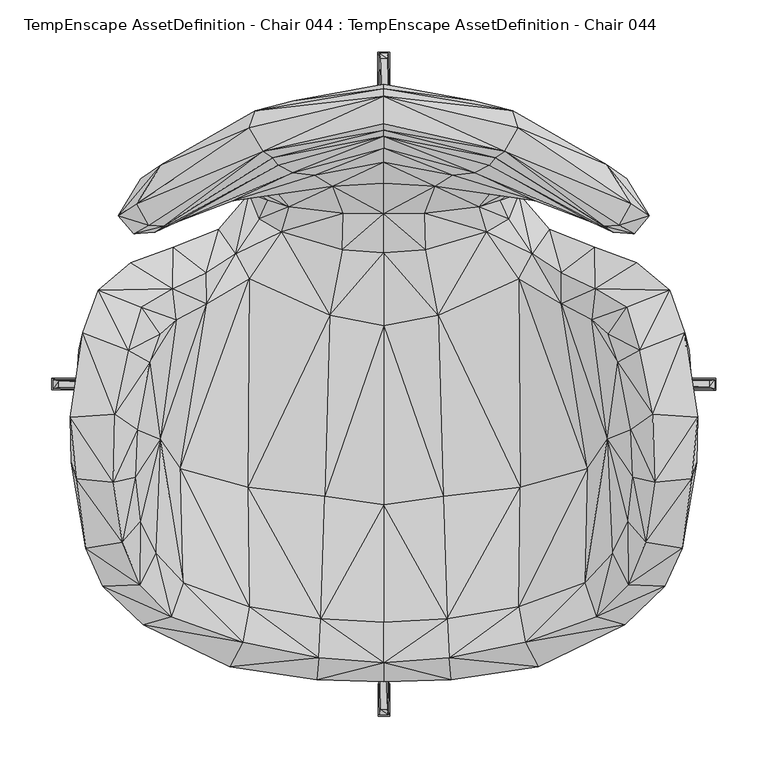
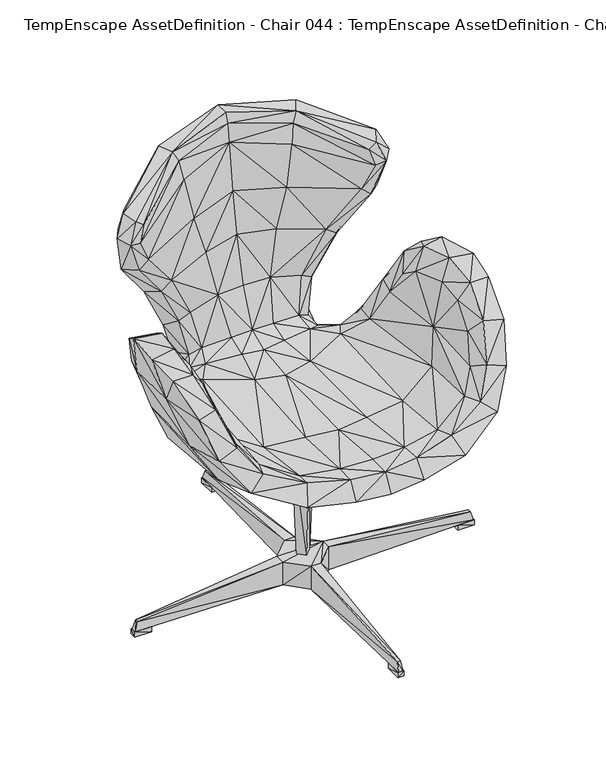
"""IFC4 building model written with IfcOpenShell, lengths in millimetres: geographic element geometry, TempEnscape AssetDefinition - Chair 044 : TempEnscape AssetDefinition - Chair 044."""

import ifcopenshell
import ifcopenshell.guid

model = None  # the IFC model being written
_history = None  # IfcOwnerHistory: only IFC2X3 demands one
_inside = {}  # id of a spatial element -> (the spatial element, [elements in it])
_under = {}  # id of a project, library or spatial element -> (it, [spatial elements below it])
_declared = {}  # id of a project -> (the project, [libraries it declares])
_typed = {}  # id of a type object -> (the type object, [elements of that type])
_made_of = {}  # id of a material, layer set ... -> (it, [elements and type objects made of it])


def new_model(schema):
    """Start an empty IFC model of exactly this schema.

    Asked for "IFC4X3", IfcOpenShell would pick the latest addendum, in which some entities
    have other attributes; the version numbers below select the first issue.
    IFC2X3 requires an IfcOwnerHistory on every rooted entity: one is made here for all.
    """
    global model, _history
    if schema == "IFC4X3":
        model = ifcopenshell.file(schema_version=(4, 3, 0, 0))
    else:
        model = ifcopenshell.file(schema=schema)
    _inside.clear()
    _under.clear()
    _declared.clear()
    _typed.clear()
    _made_of.clear()
    _history = None
    if model.schema == "IFC2X3":
        org = make("IfcOrganization", Name="unknown")
        user = make(
            "IfcPersonAndOrganization",
            ThePerson=make("IfcPerson", FamilyName="unknown"),
            TheOrganization=org,
        )
        app = make(
            "IfcApplication",
            ApplicationDeveloper=org,
            Version="unknown",
            ApplicationFullName="unknown",
            ApplicationIdentifier="unknown",
        )
        _history = make(
            "IfcOwnerHistory",
            OwningUser=user,
            OwningApplication=app,
            ChangeAction="ADDED",
            CreationDate=0,
        )
    return model


def make(cls, **values):
    """One entity of the class cls with the attributes given. An attribute that is None is left unset."""
    return model.create_entity(
        cls, **{name: value for name, value in values.items() if value is not None}
    )


def rooted(cls, **values):
    """An entity with a GlobalId (a new one), such as an element, a storey or a relation."""
    return make(cls, GlobalId=ifcopenshell.guid.new(), OwnerHistory=_history, **values)


def si_unit(unit_type, name, prefix=None):
    """IfcSIUnit, for example si_unit("LENGTHUNIT", "METRE", prefix="MILLI")."""
    return make("IfcSIUnit", UnitType=unit_type, Prefix=prefix, Name=name)


def assignment(units):
    """IfcUnitAssignment: the units of a project."""
    return None if units is None else make("IfcUnitAssignment", Units=units)


def point(xyz):
    """IfcCartesianPoint."""
    return None if xyz is None else make("IfcCartesianPoint", Coordinates=xyz)


def direction(xyz):
    """IfcDirection."""
    return None if xyz is None else make("IfcDirection", DirectionRatios=xyz)


def frame(location, z_axis=None, x_axis=None):
    """IfcAxis2Placement3D, a coordinate frame: its origin and axes. An axis left out is left unset."""
    return make(
        "IfcAxis2Placement3D",
        Location=point(location),
        Axis=direction(z_axis),
        RefDirection=direction(x_axis),
    )


def origin():
    """The frame at (0, 0, 0) with its axes left unset."""
    return frame((0.0, 0.0, 0.0))


def place(relative_to, where):
    """IfcLocalPlacement: puts the frame where relative to a parent placement (None: the world)."""
    return make(
        "IfcLocalPlacement", PlacementRelTo=relative_to, RelativePlacement=where
    )


def context(
    kind, dimensions, precision=None, world=None, true_north=None, identifier=None
):
    """IfcGeometricRepresentationContext, for example the 3D "Model" context."""
    return make(
        "IfcGeometricRepresentationContext",
        ContextIdentifier=identifier,
        ContextType=kind,
        CoordinateSpaceDimension=dimensions,
        Precision=precision,
        WorldCoordinateSystem=world,
        TrueNorth=true_north,
    )


def project(units=None, contexts=None):
    """IfcProject with its units and contexts."""
    return rooted(
        "IfcProject",
        Name="project",
        RepresentationContexts=contexts,
        UnitsInContext=assignment(units),
    )


def spatial(cls, under=None, at=None, **own):
    """A site, building, storey or space (cls), placed at a placement, below another one or the project."""
    s = rooted(cls, ObjectPlacement=at, **own)
    if under is not None:
        _under.setdefault(under.id(), (under, []))[1].append(s)
    return s


def faces_of(points, faces, orient=None, outer=None):
    """IfcFace entities. A face is a list of loops; a loop is a list of indices into points, from 0.

    orient and outer hold one flag for each loop. By default every Orientation is true, the
    first loop of a face is its IfcFaceOuterBound and the others are IfcFaceBound.
    """
    made = []
    for i, loops in enumerate(faces):
        bounds = []
        for j, loop in enumerate(loops):
            is_outer = j == 0 if outer is None else outer[i][j]
            bounds.append(
                make(
                    "IfcFaceOuterBound" if is_outer else "IfcFaceBound",
                    Bound=make("IfcPolyLoop", Polygon=[points[k] for k in loop]),
                    Orientation=True if orient is None else orient[i][j],
                )
            )
        made.append(make("IfcFace", Bounds=bounds))
    return made


def faceted_brep(points, faces, orient=None, outer=None, voids=None):
    """IfcFacetedBrep: a solid bounded by flat faces; with voids (closed shells), ...WithVoids."""
    shared = [point(p) for p in points]
    hull = make("IfcClosedShell", CfsFaces=faces_of(shared, faces, orient, outer))
    if voids is None:
        return make("IfcFacetedBrep", Outer=hull)
    return make(
        "IfcFacetedBrepWithVoids",
        Outer=hull,
        Voids=[
            make(cls, CfsFaces=faces_of(shared, fs, o, b)) for cls, fs, o, b in voids
        ],
    )


def shape(context_of_items, identifier, shape_type, items):
    """IfcShapeRepresentation: the items that make up one representation, for example the "Body"."""
    return make(
        "IfcShapeRepresentation",
        ContextOfItems=context_of_items,
        RepresentationIdentifier=identifier,
        RepresentationType=shape_type,
        Items=items,
    )


def source(mapping_origin, context_of_items, identifier, shape_type, items):
    """IfcRepresentationMap: a shape defined once, which mapped items show again and again."""
    return make(
        "IfcRepresentationMap",
        MappingOrigin=mapping_origin,
        MappedRepresentation=shape(context_of_items, identifier, shape_type, items),
    )


def transform(
    local_origin,
    x_axis=None,
    y_axis=None,
    z_axis=None,
    scale=None,
    scale2=None,
    scale3=None,
    uniform=True,
):
    """IfcCartesianTransformationOperator3D, or its non-uniform kind. x_axis, y_axis, z_axis: its Axis1, 2, 3."""
    if uniform:
        return make(
            "IfcCartesianTransformationOperator3D",
            Axis1=direction(x_axis),
            Axis2=direction(y_axis),
            LocalOrigin=point(local_origin),
            Scale=scale,
            Axis3=direction(z_axis),
        )
    return make(
        "IfcCartesianTransformationOperator3DnonUniform",
        Axis1=direction(x_axis),
        Axis2=direction(y_axis),
        LocalOrigin=point(local_origin),
        Scale=scale,
        Axis3=direction(z_axis),
        Scale2=scale2,
        Scale3=scale3,
    )


def mapped(mapping_source, mapping_target):
    """IfcMappedItem: shows the shape of a source again, moved by a transform."""
    return make(
        "IfcMappedItem", MappingSource=mapping_source, MappingTarget=mapping_target
    )


def made_of(thing, what):
    """Note that an element or type object is made of a material, layer set ...; save() writes the relation."""
    if what is not None:
        _made_of.setdefault(what.id(), (what, []))[1].append(thing)
    return thing


def element(
    cls,
    number,
    at=None,
    inside=None,
    cuts=None,
    type_object=None,
    material=None,
    context=None,
    identifier="Body",
    shape_type=None,
    held_by="IfcProductDefinitionShape",
    body=None,
    shapes=None,
    **own,
):
    """One element of the class cls, such as IfcWall. Its Tag is "e" and its number.

    at: its placement. inside: the storey or other place that contains it. cuts: it is an
    opening in that element (IfcRelVoidsElement). A single representation is given by context,
    identifier, shape_type and body (its items); several are given by shapes. held_by: the class
    of the entity that holds the representations. save() writes the other relations.
    """
    e = rooted(cls, Tag="e%d" % number, ObjectPlacement=at, **own)
    if body is not None:
        shapes = [shape(context, identifier, shape_type, body)]
    if shapes is not None:
        e.Representation = make(held_by, Representations=shapes)
    if inside is not None:
        _inside.setdefault(inside.id(), (inside, []))[1].append(e)
    if cuts is not None:
        rooted(
            "IfcRelVoidsElement", RelatingBuildingElement=cuts, RelatedOpeningElement=e
        )
    if type_object is not None:
        _typed.setdefault(type_object.id(), (type_object, []))[1].append(e)
    return made_of(e, material)


def aggregate(whole, parts):
    """IfcRelAggregates: a whole, such as a stair, and the parts it consists of."""
    return rooted("IfcRelAggregates", RelatingObject=whole, RelatedObjects=parts)


def save(model, path):
    """Write the relations noted so far, then the file.

    IfcRelAggregates (storeys below a building ...), IfcRelContainedInSpatialStructure (elements
    in a storey), IfcRelDefinesByType, IfcRelAssociatesMaterial and IfcRelDeclares: one each for
    every whole, place, type object, material and project.
    """
    for whole, parts in _under.values():
        aggregate(whole, parts)
    for where, things in _inside.values():
        rooted(
            "IfcRelContainedInSpatialStructure",
            RelatedElements=things,
            RelatingStructure=where,
        )
    for kind, things in _typed.values():
        rooted("IfcRelDefinesByType", RelatedObjects=things, RelatingType=kind)
    for what, things in _made_of.values():
        rooted("IfcRelAssociatesMaterial", RelatedObjects=things, RelatingMaterial=what)
    for by, libraries in _declared.values():
        rooted("IfcRelDeclares", RelatingContext=by, RelatedDefinitions=libraries)
    model.write(path)


def tempenscape_assetdefinition_chair_044_tempenscape_57264eab(model_context):
    return source(origin(), model_context, "Body", "Brep", [
        faceted_brep([(-43.6997972, -8.6000264, 9.8535903), (-10.0614205, -42.2384068, 55.0053753), (-43.6997972, -8.6000264, 55.0053753), (-10.0614205, -42.2384068, 9.8535903), (2.2936538, -312.687397, 26.964305), (-3.7127286, -312.687397, 26.964305), (8.6423447, -42.2384068, 55.0053753), (42.2384068, 10.0614205, 55.0053753), (3.6487812, -318.0185556, 9.8535903), (-5.0678561, -318.0185556, 9.8535903), (42.2384068, -8.6423447, 9.8535903), (8.6423447, -42.2384068, 9.8535903), (42.2384068, -8.6423447, 55.0053753), (-43.6997972, 10.1037379, 9.8535903), (42.2384068, 10.0614205, 9.8535903), (318.0185556, -3.6478408, 9.8535903), (312.687397, -2.2936538, 26.964305), (318.0185556, 5.0678561, 9.8535903), (312.687397, 3.7127286, 26.964305), (8.6000264, 43.6997972, 9.8535903), (8.6000264, 43.6997972, 55.0053753), (-3.7550472, 314.1487539, 26.964305), (2.2513357, 314.1487539, 26.964305), (-10.1037379, 43.6997972, 55.0053753), (-43.6997972, 10.1037379, 55.0053753), (-5.1101744, 319.480896, 9.8535903), (-10.1037379, 43.6997972, 9.8535903), (3.6055224, 319.480896, 9.8535903), (-314.1487539, 3.7550472, 26.964305), (-319.480896, 5.1101744, 9.8535903), (-314.1487539, -2.2513357, 26.964305), (-319.480896, -3.6064629, 9.8535903)], [[[0, 1, 2]], [[3, 1, 0]], [[4, 1, 5]], [[6, 1, 4]], [[1, 3, 5]], [[1, 7, 2]], [[6, 7, 1]], [[5, 8, 4]], [[9, 8, 5]], [[5, 3, 9]], [[4, 8, 6]], [[10, 6, 11]], [[12, 6, 10]], [[6, 8, 11]], [[7, 6, 12]], [[8, 3, 11]], [[9, 3, 8]], [[11, 13, 10]], [[3, 13, 11]], [[10, 13, 14]], [[10, 15, 12]], [[10, 14, 15]], [[16, 7, 12]], [[12, 15, 16]], [[17, 16, 15]], [[15, 14, 17]], [[18, 7, 16]], [[18, 16, 17]], [[17, 14, 18]], [[18, 14, 7]], [[14, 13, 19]], [[20, 14, 19]], [[7, 14, 20]], [[21, 20, 22]], [[23, 20, 21]], [[23, 7, 20]], [[20, 19, 22]], [[24, 7, 23]], [[2, 7, 24]], [[23, 25, 26]], [[21, 25, 23]], [[26, 24, 23]], [[22, 25, 21]], [[27, 25, 22]], [[22, 19, 27]], [[25, 19, 26]], [[27, 19, 25]], [[19, 13, 26]], [[13, 24, 26]], [[28, 2, 24]], [[24, 29, 28]], [[13, 29, 24]], [[30, 2, 28]], [[30, 0, 2]], [[31, 28, 29]], [[30, 28, 31]], [[29, 0, 31]], [[13, 0, 29]], [[13, 3, 0]], [[31, 0, 30]]]),
        faceted_brep([(287.8493369, 6.4173406, 0.0), (319.2692995, 6.4173406, 9.8535903), (319.2692995, 6.4173406, 0.0), (287.8493369, 6.4173406, 9.8535903), (319.2692995, -4.9982662, 9.8535903), (287.8493369, -4.9982662, 0.0), (319.2692995, -4.9982662, 0.0), (287.8493369, -4.9982662, 9.8535903)], [[[0, 1, 2]], [[3, 1, 0]], [[1, 4, 2]], [[3, 4, 1]], [[5, 2, 6]], [[0, 2, 5]], [[2, 4, 6]], [[0, 7, 3]], [[5, 7, 0]], [[7, 4, 3]], [[7, 6, 4]], [[5, 6, 7]]]),
        faceted_brep([(-6.4173406, -287.8493369, 0.0), (-6.4173406, -319.2692995, 9.8535903), (-6.4173406, -287.8493369, 9.8535903), (-6.4173406, -319.2692995, 0.0), (4.9982662, -319.2692995, 9.8535903), (4.9982662, -287.8493369, 9.8535903), (4.9982662, -287.8493369, 0.0), (4.9982662, -319.2692995, 0.0)], [[[0, 1, 2]], [[3, 1, 0]], [[3, 4, 1]], [[1, 4, 2]], [[2, 5, 0]], [[2, 4, 5]], [[0, 5, 6]], [[6, 3, 0]], [[7, 3, 6]], [[7, 4, 3]], [[4, 7, 5]], [[5, 7, 6]]]),
        faceted_brep([(4.9559479, 289.3107235, 0.0), (4.9559479, 320.7306862, 9.8535903), (4.9559479, 289.3107235, 9.8535903), (4.9559479, 320.7306862, 0.0), (-6.459659, 320.7306862, 9.8535903), (-6.459659, 289.3107235, 9.8535903), (-6.459659, 289.3107235, 0.0), (-6.459659, 320.7306862, 0.0)], [[[0, 1, 2]], [[3, 1, 0]], [[3, 4, 1]], [[1, 4, 2]], [[2, 5, 0]], [[2, 4, 5]], [[0, 5, 6]], [[6, 3, 0]], [[7, 3, 6]], [[7, 4, 3]], [[4, 7, 5]], [[5, 7, 6]]]),
        faceted_brep([(-289.3107235, -4.9559479, 0.0), (-320.7306862, -4.9559479, 9.8535903), (-320.7306862, -4.9559479, 0.0), (-289.3107235, -4.9559479, 9.8535903), (-320.7306862, 6.459659, 9.8535903), (-289.3107235, 6.459659, 0.0), (-320.7306862, 6.459659, 0.0), (-289.3107235, 6.459659, 9.8535903)], [[[0, 1, 2]], [[3, 1, 0]], [[1, 4, 2]], [[3, 4, 1]], [[5, 2, 6]], [[0, 2, 5]], [[2, 4, 6]], [[0, 7, 3]], [[5, 7, 0]], [[7, 4, 3]], [[7, 6, 4]], [[5, 6, 7]]]),
        faceted_brep([(-0.7306966, 12.8572518, 51.2202382), (21.0058838, 0.7306966, 275.5205929), (11.3958577, 0.7306966, 51.2202382), (-0.7306966, 22.4672761, 275.5205929), (-0.7306966, -21.0058838, 275.5205929), (-0.7306966, -11.3958577, 51.2202382), (-12.8572518, 0.7306966, 51.2202382), (-22.4672761, 0.7306966, 275.5205929)], [[[0, 1, 2]], [[3, 1, 0]], [[2, 4, 5]], [[1, 4, 2]], [[6, 3, 0]], [[7, 3, 6]], [[5, 7, 6]], [[4, 7, 5]], [[4, 3, 7]], [[1, 3, 4]], [[5, 0, 2]], [[6, 0, 5]]]),
        faceted_brep([(-0.7306966, 239.448458, 725.0052691), (106.3854843, 218.7989801, 737.7327681), (-0.7306966, 245.1726943, 759.0649724), (100.9790748, 211.6462439, 702.2953629), (115.4688746, 225.0479758, 755.643785), (220.2547193, 146.9875872, 657.5658917), (211.5032971, 152.7438164, 687.8507137), (199.5855123, 156.3690901, 612.8598452), (86.9293883, 204.445526, 625.6653666), (240.5317873, 145.3917027, 660.728395), (226.1557728, 153.8393795, 697.6591349), (217.679888, 156.8787843, 596.2042212), (240.3202057, 176.5332967, 594.5566893), (255.1682889, 162.7140045, 669.159174), (144.9657083, 177.2621125, 538.8403535), (164.5111293, 177.1831214, 524.2123008), (48.7817563, 191.2356317, 467.8913057), (104.0758416, 186.8542731, 455.3660154), (65.7081529, 202.0145804, 552.4348617), (124.725312, 189.1215891, 444.1093504), (184.0584427, 198.6469775, 517.2758698), (90.9834877, 171.6018021, 389.5845115), (111.2191752, 177.9664755, 379.3500662), (139.2941028, 213.9643431, 426.5603721), (111.0846996, 234.6429676, 417.6312089), (151.5974551, 229.3766737, 525.1612067), (126.5835613, 206.419453, 373.0079532), (106.1917543, 222.2850621, 360.4064584), (56.1827645, 269.1079676, 535.6570482), (37.5749208, 250.4098415, 413.2564366), (215.294078, 207.9344392, 601.451695), (85.9382004, 273.8795877, 637.0480061), (233.3903462, 198.4983981, 659.3450904), (213.9069736, 211.7788345, 683.7242246), (123.3024746, 263.9789879, 724.447608), (237.6550734, 174.5988876, 706.7303061), (128.8941354, 247.460708, 758.8045001), (-0.7306966, 277.9477835, 776.6157985), (-0.7306966, 285.1635516, 740.275681), (-0.7306966, 251.6229451, 777.1405578), (-116.9302687, 225.0479758, 755.643785), (-130.355522, 247.460708, 758.8045001), (-124.7648075, 263.9789879, 724.447608), (-239.116475, 174.5988876, 706.7303061), (-215.3683752, 211.7788345, 683.7242246), (-87.3995945, 273.8795877, 637.0480061), (-216.7554647, 207.9344392, 601.451695), (-256.6306293, 162.7140045, 669.159174), (-234.8517329, 198.4983981, 659.3450904), (-227.6171744, 153.8393795, 697.6591349), (-241.7815924, 176.5332967, 594.5566893), (-241.9931889, 145.3917027, 660.728395), (-153.0588418, 229.3766737, 525.1612067), (-219.1412747, 156.8787843, 596.2042212), (-165.9725159, 177.1831214, 524.2123008), (-185.5198294, 198.6469775, 517.2758698), (-112.5460863, 234.6429676, 417.6312089), (-57.6441586, 269.1079676, 535.6570482), (-126.1866987, 189.1215891, 444.1093504), (-140.7554895, 213.9643431, 426.5603721), (-107.6531485, 222.2850621, 360.4064584), (-39.0363149, 250.4098415, 413.2564366), (-0.7306966, 279.6301544, 542.7552462), (-0.7306966, 289.6229625, 640.2021646), (-0.7306966, 255.5350661, 404.5830667), (-38.2322669, 222.2888321, 319.6040988), (36.7708765, 222.2888321, 319.6040988), (-0.7306966, 221.1434096, 310.4134798), (45.7028672, 161.7641896, 285.0243747), (-0.7306966, 163.0393863, 277.9073715), (-47.1642576, 161.7641896, 285.0243747), (-120.2376857, 182.3271513, 325.7035613), (-59.3961403, 39.084278, 261.9909644), (-160.0498408, 41.9882573, 286.7913544), (57.9347461, 39.084278, 261.9909644), (-0.7306966, 42.4528159, 257.2823465), (-65.3780699, -189.4413233, 308.7959886), (-162.1403694, -171.463564, 322.907716), (63.9166757, -189.4413233, 308.7959886), (-0.7306966, -184.6405417, 303.3256233), (160.6789678, -171.463564, 322.907716), (158.5884541, 41.9891961, 286.7913544), (64.0144795, -284.2767239, 348.6523032), (-0.7306966, -286.3456309, 343.6183333), (-65.4758736, -284.2767239, 348.6523032), (-63.5593235, -263.2398009, 380.2208602), (-149.2323279, -271.8069255, 359.9494398), (-0.7306966, -268.1120634, 377.3667216), (147.7709264, -271.8069255, 359.9494398), (62.0979294, -263.2398009, 380.2208602), (60.3534728, -225.4561186, 378.8553774), (-0.7306966, -228.691116, 377.8209388), (-61.8148707, -225.4561186, 378.8553774), (135.3114694, -248.0014414, 390.2201951), (129.1461587, -213.8072997, 381.6944957), (192.8427815, -191.0419166, 412.7354622), (204.0947676, -223.6063331, 417.9838598), (231.2866449, -231.4766049, 393.3508396), (195.4430193, -80.8186233, 404.9075246), (130.6263655, -98.6233577, 369.3083823), (214.6047503, -52.6299067, 459.3740106), (219.4102257, -162.1939689, 445.4794824), (234.5122397, -192.670688, 461.4024758), (270.1254785, -194.3154633, 448.4154582), (234.0617925, -131.8517029, 491.6252792), (251.6812682, -151.8447846, 518.2040334), (286.5957618, -157.7401906, 512.9339695), (279.87656, -116.2080392, 435.169816), (300.7818162, -75.1526654, 510.8265281), (295.9913611, -90.438053, 553.4082055), (239.0995473, -89.0217945, 525.9746313), (260.3170276, -93.7520489, 555.8570623), (237.1359766, -43.1703478, 535.5404615), (258.5650384, -28.263947, 567.0121312), (301.7354012, -31.2864184, 562.5367165), (289.3690467, 50.3052212, 549.9662757), (245.8159477, 33.3158188, 556.2115908), (224.8044163, 21.6679294, 521.1343169), (199.4717121, 62.5248775, 464.455992), (169.9607819, 78.1262368, 411.3483429), (215.4219747, 48.6773737, 502.7889013), (233.1307828, 74.7435912, 526.8303752), (274.8124599, 90.8809826, 521.4343071), (202.811107, 92.3320279, 470.4623818), (280.8705866, 70.901081, 491.0921156), (243.0436164, 117.5697446, 468.2881534), (293.5754657, 33.0242924, 498.4695911), (202.3427933, 132.6905638, 407.9186916), (170.3962088, 107.7622399, 414.5193994), (256.9964528, 81.8163976, 434.5218837), (273.134768, 20.5225125, 425.8297086), (225.7034481, 83.8298053, 368.8221872), (243.6360568, 17.784046, 356.9542468), (243.040815, -144.3563104, 370.8854318), (172.4067926, 105.6096405, 318.1558549), (118.7762916, 182.3271513, 325.7035613), (158.4596038, 149.67902, 356.5291762), (129.1828454, 184.1985583, 350.5068123), (119.5173338, 160.0752324, 366.9216037), (142.1661079, 126.1349767, 380.284816), (98.2058123, 147.5311369, 374.5868802), (129.1424036, 102.4000347, 381.1499774), (51.6302511, 67.0341253, 375.2780855), (39.4811295, 130.1947236, 382.9565048), (38.6422835, 165.22865, 395.9444761), (-0.7306966, 164.8656577, 397.1585333), (-0.7306966, 127.123341, 380.3967237), (-0.7306966, 194.2082644, 467.7173197), (-50.2431504, 191.2356317, 467.8913057), (-40.1036777, 165.22865, 395.9444761), (-40.9425199, 130.1947236, 382.9565048), (-0.7306966, 214.5483345, 556.5068722), (-0.7306966, 228.0121446, 635.4230046), (-67.1695471, 202.0145804, 552.4348617), (-88.3907825, 204.445526, 625.6653666), (-146.4270949, 177.2621125, 538.8403535), (-201.046899, 156.3690901, 612.8598452), (-102.4404764, 211.6462439, 702.2953629), (-107.8478098, 218.7989801, 737.7327681), (-221.7161059, 146.9875872, 657.5658917), (-212.9646838, 152.7438164, 687.8507137), (-105.5372357, 186.8542731, 455.3660154), (-92.4458206, 171.6018021, 389.5845115), (-112.6805693, 177.9664755, 379.3500662), (-120.9787279, 160.0752324, 366.9216037), (-99.6672064, 147.5311369, 374.5868802), (-130.644232, 184.1985583, 350.5068123), (-128.044948, 206.419453, 373.0079532), (-143.6275095, 126.1349767, 380.284816), (-159.9210054, 149.67902, 356.5291762), (-173.8681793, 105.6096405, 318.1558549), (-171.4221835, 78.1262368, 411.3483429), (-130.6037903, 102.4000347, 381.1499774), (-171.8575954, 107.7622399, 414.5193994), (-203.80418, 132.6896101, 407.9186916), (-227.1648347, 83.8298053, 368.8221872), (-258.4578395, 81.8163976, 434.5218837), (-245.0974733, 17.784046, 356.9542468), (-204.2734325, 92.3320279, 470.4623818), (-244.505018, 117.5688058, 468.2881534), (-200.9331137, 62.5248775, 464.455992), (-234.5921844, 74.7435912, 526.8303752), (-276.2738764, 90.8809826, 521.4343071), (-282.3319733, 70.901081, 491.0921156), (-295.0368822, 33.0242924, 498.4695911), (-290.8313572, 50.3052212, 549.9662757), (-247.2773343, 33.3158188, 556.2115908), (-216.8833613, 48.6773737, 502.7889013), (-226.265803, 21.6679294, 521.1343169), (-260.0264549, -28.263947, 567.0121312), (-303.1967878, -31.2864184, 562.5367165), (-302.2432029, -75.1536041, 510.8265281), (-261.7784441, -93.7520489, 555.8570623), (-238.5973781, -43.1703478, 535.5404615), (-216.0661519, -52.6299067, 459.3740106), (-240.5609339, -89.0217945, 525.9746313), (-253.1426549, -151.8447846, 518.2040334), (-297.4527776, -90.438053, 553.4082055), (-288.0571783, -157.7401906, 512.9339695), (-235.9736413, -192.670688, 461.4024758), (-235.5231643, -131.8517029, 491.6252792), (-220.8716422, -162.1949077, 445.4794824), (-205.5561543, -223.6063331, 417.9838598), (-271.5868652, -194.3154633, 448.4154582), (-281.3379467, -116.2080392, 435.169816), (-232.7480465, -231.4766049, 393.3508396), (-194.3041831, -191.0419166, 412.7354622), (-136.772871, -248.0014414, 390.2201951), (-130.6075454, -213.8072997, 381.6944957), (-196.904406, -80.8186233, 404.9075246), (-244.5021868, -144.3563104, 370.8854318), (-274.5961547, 20.5225125, 425.8297086), (-132.0877671, -98.6233577, 369.3083823), (-0.7306966, -115.7594621, 368.1168854), (-57.9131171, -107.391715, 367.8112626), (-53.0916452, 67.0341253, 375.2780855), (-0.7306966, 56.6830635, 371.5916872), (56.451723, -107.391715, 367.8112626)], [[[0, 1, 2]], [[3, 1, 0]], [[1, 4, 2]], [[1, 5, 6]], [[3, 5, 1]], [[1, 6, 4]], [[3, 7, 5]], [[8, 7, 3]], [[0, 8, 3]], [[5, 7, 9]], [[5, 9, 6]], [[6, 9, 10]], [[4, 6, 10]], [[9, 7, 11]], [[9, 12, 13]], [[11, 12, 9]], [[9, 13, 10]], [[7, 14, 11]], [[8, 14, 7]], [[11, 15, 12]], [[11, 14, 15]], [[14, 16, 17]], [[18, 16, 14]], [[18, 14, 8]], [[14, 17, 15]], [[15, 19, 20]], [[12, 15, 20]], [[15, 17, 19]], [[17, 21, 19]], [[16, 21, 17]], [[19, 21, 22]], [[20, 19, 23]], [[19, 22, 23]], [[24, 20, 23]], [[25, 20, 24]], [[25, 12, 20]], [[23, 22, 26]], [[27, 23, 26]], [[24, 23, 27]], [[28, 24, 29]], [[25, 24, 28]], [[24, 27, 29]], [[30, 12, 25]], [[25, 31, 30]], [[28, 31, 25]], [[32, 12, 30]], [[13, 12, 32]], [[30, 33, 32]], [[30, 34, 33]], [[31, 34, 30]], [[33, 13, 32]], [[35, 13, 33]], [[10, 13, 35]], [[33, 36, 35]], [[34, 36, 33]], [[34, 37, 36]], [[38, 37, 34]], [[31, 38, 34]], [[4, 35, 36]], [[36, 37, 4]], [[10, 35, 4]], [[2, 4, 39]], [[4, 37, 39]], [[39, 40, 2]], [[39, 37, 40]], [[40, 37, 41]], [[42, 37, 38]], [[41, 37, 42]], [[41, 43, 40]], [[44, 41, 42]], [[43, 41, 44]], [[42, 38, 45]], [[46, 42, 45]], [[44, 42, 46]], [[44, 47, 43]], [[48, 47, 44]], [[48, 44, 46]], [[40, 43, 49]], [[43, 47, 49]], [[47, 50, 51]], [[48, 50, 47]], [[49, 47, 51]], [[46, 50, 48]], [[52, 50, 46]], [[46, 45, 52]], [[51, 50, 53]], [[50, 54, 53]], [[55, 54, 50]], [[55, 50, 52]], [[56, 55, 52]], [[57, 56, 52]], [[52, 45, 57]], [[55, 58, 54]], [[59, 58, 55]], [[59, 55, 56]], [[60, 59, 56]], [[61, 56, 57]], [[61, 60, 56]], [[62, 61, 57]], [[45, 62, 57]], [[45, 38, 63]], [[63, 62, 45]], [[63, 38, 31]], [[31, 62, 63]], [[62, 29, 64]], [[28, 29, 62]], [[28, 62, 31]], [[64, 61, 62]], [[64, 65, 61]], [[65, 60, 61]], [[64, 66, 67]], [[29, 66, 64]], [[67, 65, 64]], [[29, 27, 66]], [[66, 27, 68]], [[68, 67, 66]], [[69, 67, 68]], [[70, 67, 69]], [[65, 67, 70]], [[70, 60, 65]], [[71, 60, 70]], [[69, 72, 70]], [[70, 73, 71]], [[72, 73, 70]], [[69, 74, 75]], [[68, 74, 69]], [[75, 72, 69]], [[72, 75, 76]], [[77, 72, 76]], [[73, 72, 77]], [[78, 75, 74]], [[79, 75, 78]], [[76, 75, 79]], [[80, 74, 81]], [[78, 74, 80]], [[68, 81, 74]], [[78, 82, 79]], [[80, 82, 78]], [[79, 82, 83]], [[79, 84, 76]], [[83, 84, 79]], [[76, 84, 77]], [[85, 86, 84]], [[77, 84, 86]], [[84, 87, 85]], [[83, 87, 84]], [[82, 87, 83]], [[82, 88, 89]], [[88, 82, 80]], [[89, 87, 82]], [[87, 90, 91]], [[89, 90, 87]], [[87, 92, 85]], [[91, 92, 87]], [[89, 88, 93]], [[89, 94, 90]], [[93, 94, 89]], [[93, 95, 94]], [[96, 95, 93]], [[97, 93, 88]], [[96, 93, 97]], [[94, 98, 99]], [[95, 98, 94]], [[94, 99, 90]], [[95, 100, 98]], [[101, 100, 95]], [[96, 101, 95]], [[102, 101, 96]], [[103, 96, 97]], [[102, 96, 103]], [[102, 104, 101]], [[104, 100, 101]], [[105, 104, 102]], [[106, 102, 103]], [[105, 102, 106]], [[97, 107, 103]], [[103, 108, 106]], [[107, 108, 103]], [[109, 105, 106]], [[109, 106, 108]], [[105, 110, 104]], [[111, 110, 105]], [[111, 105, 109]], [[110, 100, 104]], [[111, 112, 110]], [[110, 112, 100]], [[113, 112, 111]], [[114, 111, 109]], [[113, 111, 114]], [[109, 108, 114]], [[115, 113, 114]], [[108, 115, 114]], [[116, 113, 115]], [[113, 117, 112]], [[116, 117, 113]], [[117, 100, 112]], [[100, 117, 118]], [[100, 119, 98]], [[118, 119, 100]], [[116, 120, 117]], [[118, 117, 120]], [[121, 120, 116]], [[122, 116, 115]], [[121, 116, 122]], [[121, 118, 120]], [[123, 119, 118]], [[123, 118, 121]], [[122, 123, 121]], [[124, 125, 122]], [[125, 123, 122]], [[126, 122, 115]], [[124, 122, 126]], [[127, 123, 125]], [[128, 123, 127]], [[128, 119, 123]], [[129, 125, 124]], [[129, 127, 125]], [[126, 129, 124]], [[126, 115, 108]], [[130, 129, 126]], [[107, 126, 108]], [[130, 126, 107]], [[131, 127, 129]], [[129, 132, 131]], [[130, 132, 129]], [[130, 133, 132]], [[107, 133, 130]], [[133, 107, 97]], [[81, 133, 80]], [[132, 133, 81]], [[88, 133, 97]], [[80, 133, 88]], [[132, 81, 131]], [[131, 81, 134]], [[81, 135, 134]], [[135, 81, 68]], [[134, 136, 131]], [[134, 137, 136]], [[135, 137, 134]], [[68, 27, 135]], [[135, 26, 137]], [[27, 26, 135]], [[22, 137, 26]], [[138, 137, 22]], [[137, 139, 136]], [[138, 139, 137]], [[21, 138, 22]], [[140, 138, 21]], [[140, 139, 138]], [[139, 119, 128]], [[141, 119, 139]], [[139, 128, 136]], [[141, 139, 140]], [[140, 142, 141]], [[143, 142, 140]], [[144, 140, 21]], [[143, 140, 144]], [[144, 21, 16]], [[16, 145, 144]], [[145, 143, 144]], [[146, 142, 143]], [[146, 143, 145]], [[147, 145, 16]], [[148, 145, 147]], [[149, 145, 148]], [[145, 150, 146]], [[149, 150, 145]], [[151, 16, 18]], [[147, 16, 151]], [[151, 148, 147]], [[151, 18, 152]], [[153, 148, 151]], [[152, 153, 151]], [[152, 18, 8]], [[152, 8, 0]], [[0, 154, 152]], [[154, 153, 152]], [[155, 148, 153]], [[154, 155, 153]], [[156, 155, 154]], [[157, 156, 154]], [[157, 154, 0]], [[0, 158, 157]], [[2, 158, 0]], [[159, 156, 157]], [[158, 159, 157]], [[51, 156, 159]], [[53, 156, 51]], [[53, 155, 156]], [[160, 51, 159]], [[160, 159, 158]], [[2, 40, 158]], [[40, 160, 158]], [[49, 51, 160]], [[49, 160, 40]], [[54, 155, 53]], [[54, 161, 155]], [[58, 161, 54]], [[58, 162, 161]], [[161, 148, 155]], [[161, 162, 148]], [[163, 162, 58]], [[59, 163, 58]], [[162, 164, 165]], [[163, 164, 162]], [[162, 165, 149]], [[148, 162, 149]], [[163, 166, 164]], [[167, 166, 163]], [[167, 163, 59]], [[167, 59, 60]], [[71, 167, 60]], [[166, 167, 71]], [[166, 168, 164]], [[169, 168, 166]], [[170, 166, 71]], [[169, 166, 170]], [[164, 168, 165]], [[168, 171, 172]], [[173, 171, 168]], [[169, 173, 168]], [[165, 168, 172]], [[174, 173, 169]], [[175, 169, 170]], [[174, 169, 175]], [[170, 73, 175]], [[170, 71, 73]], [[176, 174, 175]], [[175, 177, 176]], [[175, 73, 177]], [[174, 178, 173]], [[179, 178, 174]], [[179, 174, 176]], [[178, 171, 173]], [[180, 171, 178]], [[181, 180, 178]], [[182, 178, 179]], [[181, 178, 182]], [[183, 179, 176]], [[182, 179, 183]], [[184, 182, 183]], [[185, 182, 184]], [[182, 186, 181]], [[185, 186, 182]], [[186, 187, 181]], [[187, 180, 181]], [[188, 187, 186]], [[185, 189, 186]], [[189, 188, 186]], [[190, 189, 185]], [[191, 185, 184]], [[190, 185, 191]], [[192, 193, 189]], [[190, 192, 189]], [[193, 188, 189]], [[193, 194, 188]], [[180, 188, 194]], [[187, 188, 180]], [[195, 193, 192]], [[194, 193, 195]], [[196, 195, 192]], [[197, 192, 190]], [[197, 196, 192]], [[190, 191, 197]], [[198, 196, 197]], [[191, 198, 197]], [[199, 200, 196]], [[198, 199, 196]], [[200, 195, 196]], [[200, 194, 195]], [[201, 200, 199]], [[201, 194, 200]], [[202, 201, 199]], [[203, 199, 198]], [[203, 202, 199]], [[198, 191, 203]], [[203, 204, 205]], [[203, 191, 204]], [[205, 202, 203]], [[206, 201, 202]], [[207, 206, 202]], [[205, 207, 202]], [[206, 194, 201]], [[208, 209, 206]], [[209, 194, 206]], [[208, 206, 207]], [[86, 207, 205]], [[207, 86, 85]], [[85, 208, 207]], [[205, 204, 210]], [[205, 210, 86]], [[86, 210, 77]], [[73, 210, 177]], [[77, 210, 73]], [[211, 210, 204]], [[177, 210, 211]], [[176, 177, 211]], [[184, 176, 211]], [[204, 184, 211]], [[191, 184, 204]], [[183, 176, 184]], [[92, 208, 85]], [[212, 209, 208]], [[92, 212, 208]], [[92, 213, 214]], [[91, 213, 92]], [[214, 212, 92]], [[212, 172, 209]], [[212, 215, 172]], [[214, 215, 212]], [[209, 172, 171]], [[209, 171, 194]], [[172, 215, 165]], [[214, 216, 215]], [[165, 215, 150]], [[146, 215, 216]], [[150, 215, 146]], [[213, 216, 214]], [[217, 216, 213]], [[142, 216, 217]], [[216, 142, 146]], [[99, 142, 217]], [[217, 213, 90]], [[90, 99, 217]], [[141, 142, 99]], [[98, 141, 99]], [[119, 141, 98]], [[90, 213, 91]], [[149, 165, 150]], [[194, 171, 180]], [[136, 128, 127]], [[131, 136, 127]]]),
    ])


if __name__ == "__main__":
    model = new_model("IFC4")
    model_context = context("Model", 3, world=origin())
    ifc_project = project(units=[si_unit("LENGTHUNIT", "METRE", prefix="MILLI")], contexts=[model_context])
    site = spatial("IfcSite", under=ifc_project)
    building = spatial("IfcBuilding", under=site)
    placement = place(None, origin())
    tempenscape_assetdefinition_chair_044_tempenscape_shape = tempenscape_assetdefinition_chair_044_tempenscape_57264eab(model_context)
    element("IfcGeographicElement", 1, ObjectType="TempEnscape AssetDefinition - Chair 044 : TempEnscape AssetDefinition - Chair 044", at=placement, inside=building, context=model_context, shape_type="MappedRepresentation", body=[
        mapped(tempenscape_assetdefinition_chair_044_tempenscape_shape, transform((0.0, 0.0, 0.0), x_axis=(1.0, 0.0, 0.0), y_axis=(0.0, 1.0, 0.0), z_axis=(0.0, 0.0, 1.0))),
    ])
    save(model, "model.ifc")
